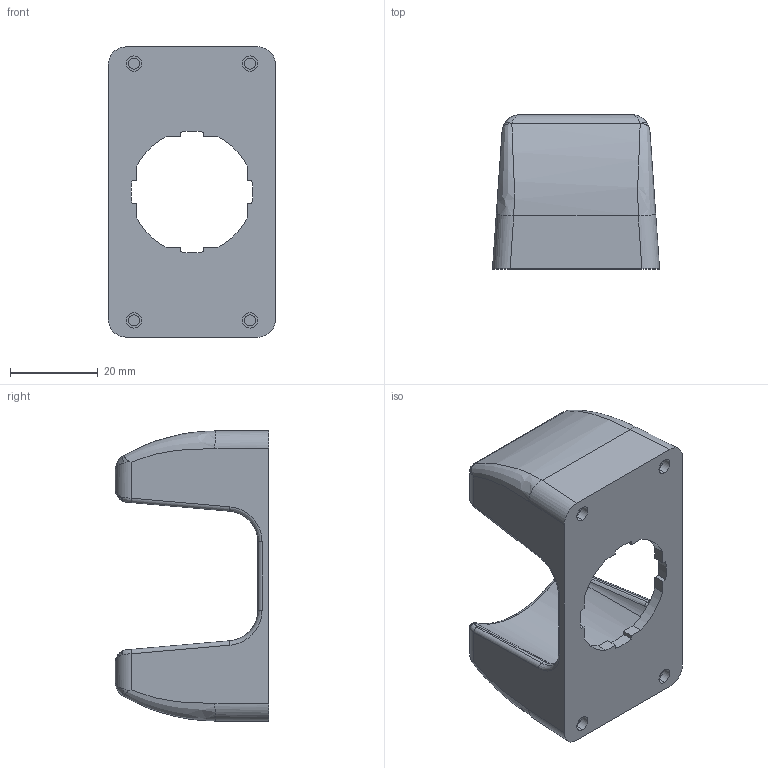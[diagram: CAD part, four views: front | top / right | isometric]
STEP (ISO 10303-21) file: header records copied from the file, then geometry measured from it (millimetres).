
FILE_DESCRIPTION (( 'STEP AP214' ), '1' );
FILE_NAME ('ZF_STEP_VE_GPx2FxA.STEP', '2021-02-09T09:48:59', ( '' ), ( '' ), 'SwSTEP 2.0', 'SolidWorks 2014', '' );
FILE_SCHEMA (( 'AUTOMOTIVE_DESIGN' ));
Length unit declared in the file: millimetre
Products named in the file (1): ZF_STEP_VE_GPx2FxA
Bounding box: 38 x 35 x 66 mm (x, y, z)
Volume: 30636.7 mm3; surface area: 11151.3 mm2
Topology: 1 solids, 1 shells, 150 faces, 364 edges, 216 vertices
Faces by surface type: cylinder 49, bspline 48, plane 36, torus 13, sphere 4
Entity records: 5778 total; most frequent: CARTESIAN_POINT 2638, ORIENTED_EDGE 712, DIRECTION 579, EDGE_CURVE 356, AXIS2_PLACEMENT_3D 232, VERTEX_POINT 216, EDGE_LOOP 160, ADVANCED_FACE 150
